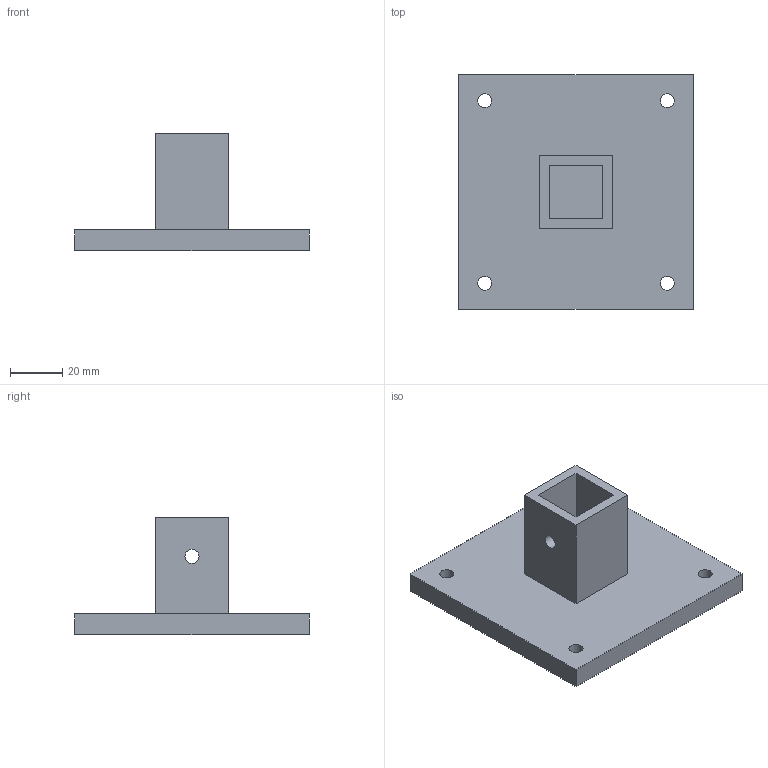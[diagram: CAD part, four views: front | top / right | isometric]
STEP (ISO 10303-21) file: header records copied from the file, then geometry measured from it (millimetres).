
FILE_DESCRIPTION(('Open CASCADE Model'),'2;1');
FILE_NAME('Open CASCADE Shape Model','2026-10-02T23:27:51',('Author'),( 'Open CASCADE'),'Open CASCADE STEP processor 7.9','Open CASCADE 7.9' ,'Unknown');
FILE_SCHEMA(('AUTOMOTIVE_DESIGN { 1 0 10303 214 1 1 1 1 }'));
Length unit declared in the file: millimetre
Products named in the file (1): Open CASCADE STEP translator 7.9 20
Bounding box: 90 x 90 x 45 mm (x, y, z)
Volume: 75673.1 mm3; surface area: 26981.3 mm2
Topology: 1 solids, 1 shells, 22 faces, 54 edges, 36 vertices
Faces by surface type: plane 16, cylinder 6
Full cylindrical faces by diameter (mm): 5.4 x6
Entity records: 1406 total; most frequent: CARTESIAN_POINT 309, DIRECTION 192, LINE 122, VECTOR 122, ORIENTED_EDGE 108, PCURVE 108, DEFINITIONAL_REPRESENTATION 108, EDGE_CURVE 54
